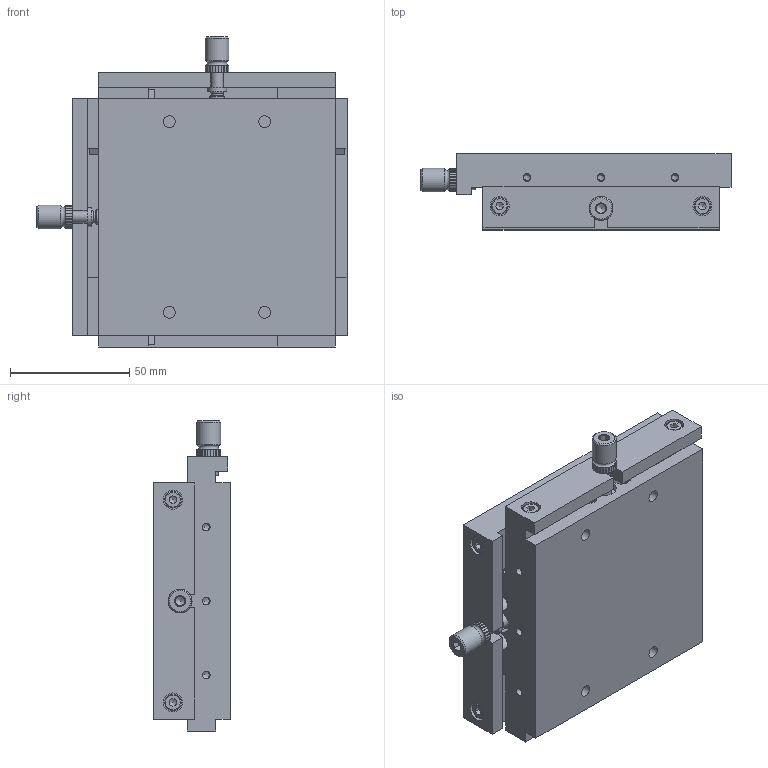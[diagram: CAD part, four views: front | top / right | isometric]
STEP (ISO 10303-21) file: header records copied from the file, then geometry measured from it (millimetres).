
FILE_DESCRIPTION((''),'2;1');
FILE_NAME('M:\Machines\_PLANS\7160000\BLOCS_STEP\CX100.stp','2015-04-14T13:26:38',('miemmola'),(''),'Autodesk Inventor 2012','Autodesk Inventor 2012','');
FILE_SCHEMA(('AUTOMOTIVE_DESIGN { 1 0 10303 214 1 1 1 1 }'));
Length unit declared in the file: millimetre
Products named in the file (1): 7160000_Enveloppe_1
Bounding box: 130 x 32 x 130 mm (x, y, z)
Volume: 337466.6 mm3; surface area: 85612.5 mm2
Topology: 1 solids, 9 shells, 428 faces, 1150 edges, 746 vertices
Faces by surface type: plane 260, cylinder 114, cone 40, torus 14
Full cylindrical faces by diameter (mm): 3.242 x12, 3.5 x6, 4 x4, 4.3 x4, 4.917 x4, 5 x4, 6 x4, 7 x4, 8 x12, 10 x6
Entity records: 13010 total; most frequent: CARTESIAN_POINT 2655, DIRECTION 1985, ORIENTED_EDGE 1984, EDGE_CURVE 992, AXIS2_PLACEMENT_3D 716, VERTEX_POINT 690, EDGE_LOOP 570, VECTOR 553
